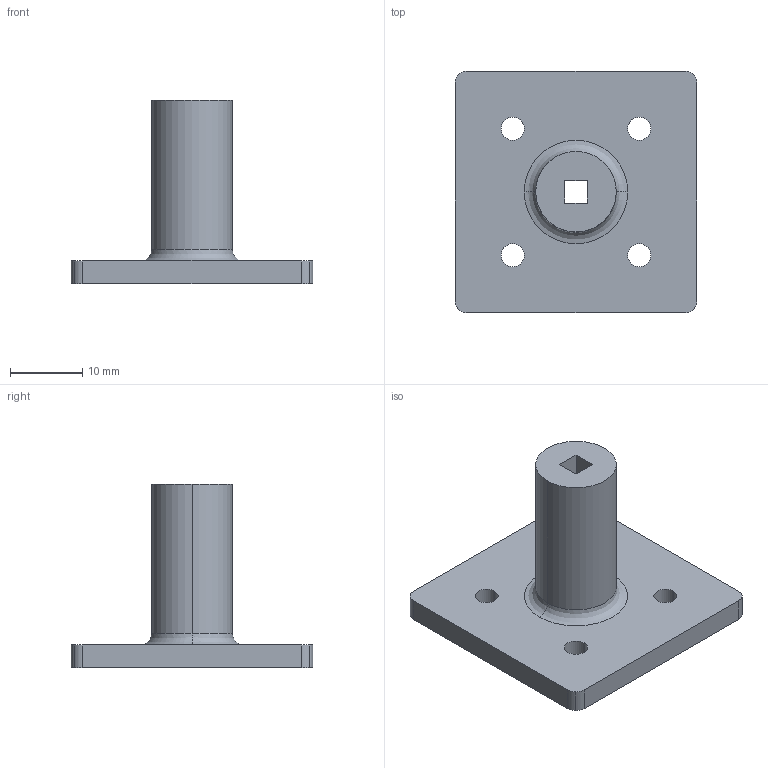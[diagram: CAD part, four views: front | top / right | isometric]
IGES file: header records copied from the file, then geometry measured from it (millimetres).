
Global section: file name: C:\Documents and Settings\Administrator\Desktop\Transfer Temp\flangecoupler.igs; native system: AutoDesk Inventor R2.0 ; preprocessor: AutoDesk Inventor Iges Exporter R2.0; author: No Author specified; organization: No Organization specified; date: 20011207.172607; units: inch
Bounding box: 33.34 x 33.34 x 25.4 mm (x, y, z)
Surface area: 3752.1 mm2 (no closed solid volume)
Topology: 0 solids, 0 shells, 31 faces, 164 edges, 164 vertices
Faces by surface type: bspline 21, revolution 10
